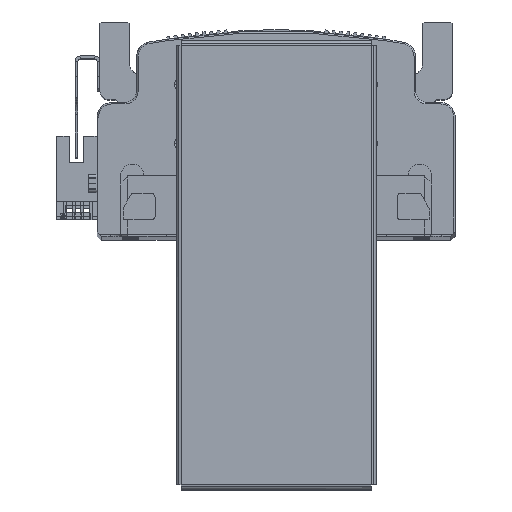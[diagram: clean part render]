
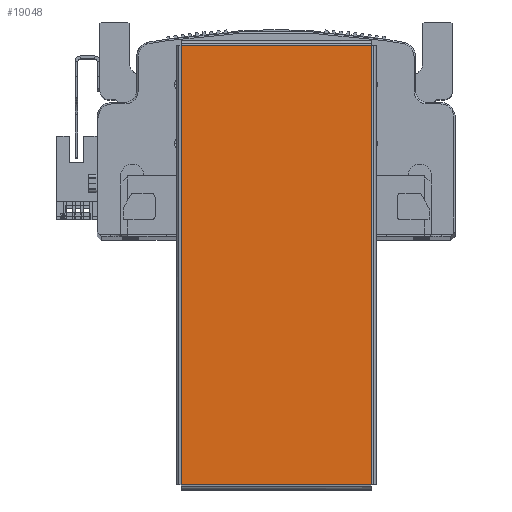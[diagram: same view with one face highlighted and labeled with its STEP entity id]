
A CAD part, top view. The second image highlights one B-rep face of the part: STEP entity #19048.
In plain terms, the highlighted planar face has unit normal (0, 0, 1) as drawn and (0, 0, -1) by its records, which use the part's own axes.
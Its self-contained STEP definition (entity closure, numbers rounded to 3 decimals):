
#6699 = CARTESIAN_POINT ( 'NONE',  ( 0., 0., -1. ) ) ;
#6705 = PLANE ( 'NONE',  #76827 ) ;
#6706 = DIRECTION ( 'NONE',  ( 1., 0., 0. ) ) ;
#6719 = DIRECTION ( 'NONE',  ( 0., 0., 1. ) ) ;
#10473 = FACE_OUTER_BOUND ( 'NONE', #78250, .T. ) ;
#19048 = ADVANCED_FACE ( 'NONE', ( #10473 ), #6705, .F. ) ;
#26901 = ORIENTED_EDGE ( 'NONE', *, *, #79751, .T. ) ;
#26904 = ORIENTED_EDGE ( 'NONE', *, *, #79741, .T. ) ;
#26981 = ORIENTED_EDGE ( 'NONE', *, *, #79729, .T. ) ;
#26987 = ORIENTED_EDGE ( 'NONE', *, *, #79736, .T. ) ;
#38830 = CARTESIAN_POINT ( 'NONE',  ( 74.763, 32.363, -1. ) ) ;
#38843 = CARTESIAN_POINT ( 'NONE',  ( -74.763, -32.363, -1. ) ) ;
#38852 = CARTESIAN_POINT ( 'NONE',  ( 74.763, -32.363, -1. ) ) ;
#38867 = CARTESIAN_POINT ( 'NONE',  ( -74.763, 32.363, -1. ) ) ;
#48609 = VERTEX_POINT ( 'NONE', #38852 ) ;
#48680 = VERTEX_POINT ( 'NONE', #38867 ) ;
#48695 = VERTEX_POINT ( 'NONE', #38830 ) ;
#48720 = VERTEX_POINT ( 'NONE', #38843 ) ;
#64666 = VECTOR ( 'NONE', #66925, 1000. ) ;
#64710 = VECTOR ( 'NONE', #66868, 1000. ) ;
#64805 = LINE ( 'NONE', #66875, #64710 ) ;
#64810 = LINE ( 'NONE', #66902, #64666 ) ;
#64960 = VECTOR ( 'NONE', #66923, 1000. ) ;
#64986 = LINE ( 'NONE', #66894, #64960 ) ;
#64992 = LINE ( 'NONE', #66905, #65004 ) ;
#65004 = VECTOR ( 'NONE', #66928, 1000. ) ;
#66868 = DIRECTION ( 'NONE',  ( -1., 0., 0. ) ) ;
#66875 = CARTESIAN_POINT ( 'NONE',  ( 74.793, -32.363, -1. ) ) ;
#66894 = CARTESIAN_POINT ( 'NONE',  ( -74.763, -32.393, -1. ) ) ;
#66902 = CARTESIAN_POINT ( 'NONE',  ( -74.793, 32.363, -1. ) ) ;
#66905 = CARTESIAN_POINT ( 'NONE',  ( 74.763, 32.393, -1. ) ) ;
#66923 = DIRECTION ( 'NONE',  ( 0., 1., 0. ) ) ;
#66925 = DIRECTION ( 'NONE',  ( 1., 0., 0. ) ) ;
#66928 = DIRECTION ( 'NONE',  ( 0., -1., 0. ) ) ;
#76827 = AXIS2_PLACEMENT_3D ( 'NONE', #6699, #6719, #6706 ) ;
#78250 = EDGE_LOOP ( 'NONE', ( #26904, #26981, #26901, #26987 ) ) ;
#79729 = EDGE_CURVE ( 'NONE', #48609, #48720, #64805, .T. ) ;
#79736 = EDGE_CURVE ( 'NONE', #48680, #48695, #64810, .T. ) ;
#79741 = EDGE_CURVE ( 'NONE', #48695, #48609, #64992, .T. ) ;
#79751 = EDGE_CURVE ( 'NONE', #48720, #48680, #64986, .T. ) ;
